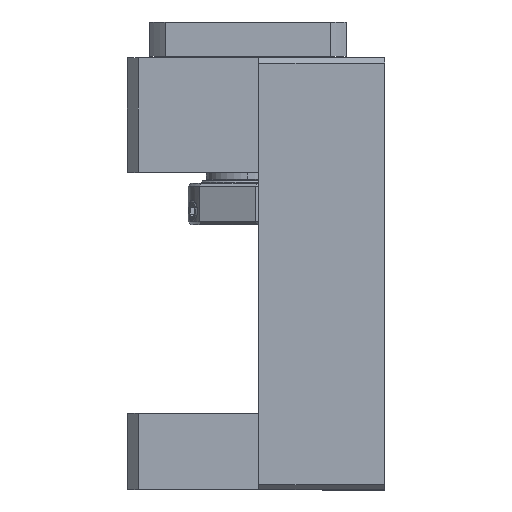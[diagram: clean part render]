
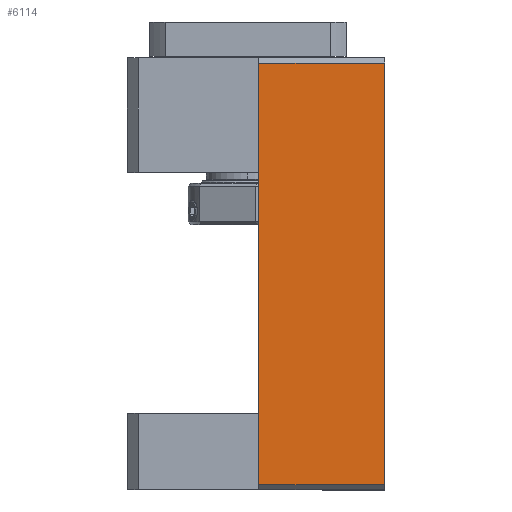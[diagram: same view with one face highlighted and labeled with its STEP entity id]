
A CAD part, left-side view. The second image highlights one B-rep face of the part: STEP entity #6114.
In plain terms, the highlighted planar face has unit normal (-1, 0, 0).
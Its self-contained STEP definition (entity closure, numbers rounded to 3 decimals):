
#2584 = VERTEX_POINT ( 'NONE', #8985 ) ;
#2585 = ORIENTED_EDGE ( 'NONE', *, *, #2586, .T. ) ;
#2586 = EDGE_CURVE ( 'NONE', #6110, #2587, #8984, .T. ) ;
#2587 = VERTEX_POINT ( 'NONE', #8980 ) ;
#2588 = ORIENTED_EDGE ( 'NONE', *, *, #2589, .F. ) ;
#2589 = EDGE_CURVE ( 'NONE', #2590, #2587, #8979, .T. ) ;
#2590 = VERTEX_POINT ( 'NONE', #8975 ) ;
#2591 = ORIENTED_EDGE ( 'NONE', *, *, #2592, .T. ) ;
#2592 = EDGE_CURVE ( 'NONE', #2590, #2584, #8974, .T. ) ;
#6105 = ORIENTED_EDGE ( 'NONE', *, *, #6112, .F. ) ;
#6109 = EDGE_LOOP ( 'NONE', ( #6105, #2585, #2588, #2591 ) ) ;
#6110 = VERTEX_POINT ( 'NONE', #10065 ) ;
#6112 = EDGE_CURVE ( 'NONE', #6110, #2584, #10060, .T. ) ;
#6114 = ADVANCED_FACE ( 'NONE', ( #10050 ), #10049, .F. ) ;
#8971 = DIRECTION ( 'NONE',  ( 0., 1., 0. ) ) ;
#8972 = VECTOR ( 'NONE', #8971, 1000. ) ;
#8973 = CARTESIAN_POINT ( 'NONE',  ( 0., 0., 78. ) ) ;
#8974 = LINE ( 'NONE', #8973, #8972 ) ;
#8975 = CARTESIAN_POINT ( 'NONE',  ( 0., 0., 78. ) ) ;
#8976 = DIRECTION ( 'NONE',  ( 0., 0., -1. ) ) ;
#8977 = VECTOR ( 'NONE', #8976, 1000. ) ;
#8978 = CARTESIAN_POINT ( 'NONE',  ( 0., 0., 79. ) ) ;
#8979 = LINE ( 'NONE', #8978, #8977 ) ;
#8980 = CARTESIAN_POINT ( 'NONE',  ( 0., 0., 1. ) ) ;
#8981 = DIRECTION ( 'NONE',  ( 0., -1., 0. ) ) ;
#8982 = VECTOR ( 'NONE', #8981, 1000. ) ;
#8983 = CARTESIAN_POINT ( 'NONE',  ( 0., 0., 1. ) ) ;
#8984 = LINE ( 'NONE', #8983, #8982 ) ;
#8985 = CARTESIAN_POINT ( 'NONE',  ( 0., 23., 78. ) ) ;
#10045 = DIRECTION ( 'NONE',  ( 0., 0., -1. ) ) ;
#10046 = DIRECTION ( 'NONE',  ( 1., 0., 0. ) ) ;
#10047 = CARTESIAN_POINT ( 'NONE',  ( 0., 0., 79. ) ) ;
#10048 = AXIS2_PLACEMENT_3D ( 'NONE', #10047, #10046, #10045 ) ;
#10049 = PLANE ( 'NONE',  #10048 ) ;
#10050 = FACE_OUTER_BOUND ( 'NONE', #6109, .T. ) ;
#10057 = DIRECTION ( 'NONE',  ( 0., 0., 1. ) ) ;
#10058 = VECTOR ( 'NONE', #10057, 1000. ) ;
#10059 = CARTESIAN_POINT ( 'NONE',  ( 0., 23., 0. ) ) ;
#10060 = LINE ( 'NONE', #10059, #10058 ) ;
#10065 = CARTESIAN_POINT ( 'NONE',  ( 0., 23., 1. ) ) ;
